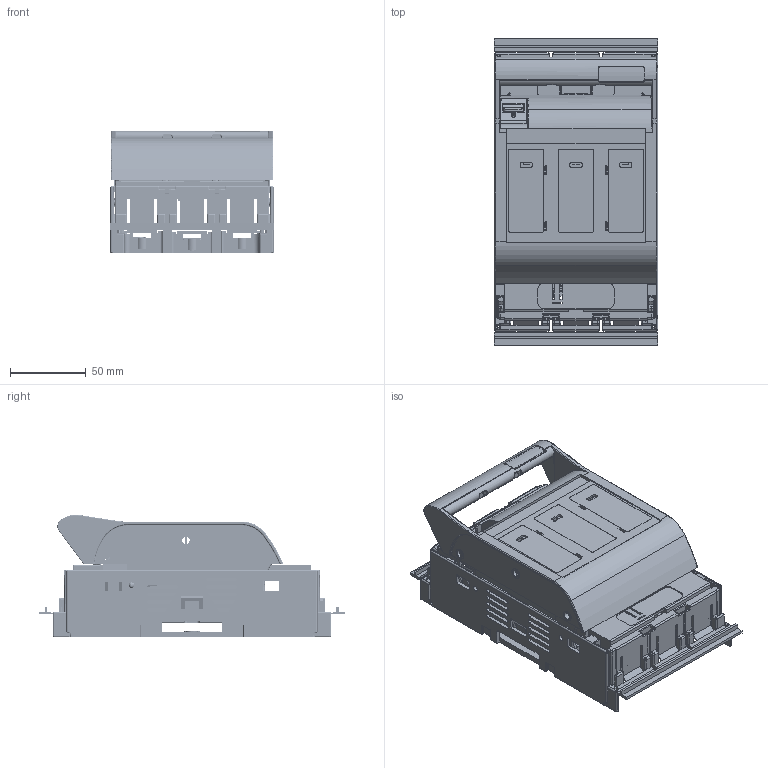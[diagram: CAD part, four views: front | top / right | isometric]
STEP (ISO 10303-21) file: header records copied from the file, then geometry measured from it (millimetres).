
FILE_DESCRIPTION (( 'STEP AP203' ), '1' );
FILE_NAME ('00ST9-3p.STEP', '2014-04-11T06:42:44', ( 'admin' ), ( '' ), 'SwSTEP 2.0', 'SolidWorks 2007', '' );
FILE_SCHEMA (( 'CONFIG_CONTROL_DESIGN' ));
Length unit declared in the file: millimetre
Products named in the file (1): 00ST9-3p
Bounding box: 108 x 202.4 x 81 mm (x, y, z)
Volume: 237879.3 mm3; surface area: 246719.3 mm2
Topology: 30 solids, 30 shells, 6246 faces, 16902 edges, 10409 vertices
Faces by surface type: plane 3067, cylinder 2159, bspline 827, cone 155, torus 38
Entity records: 229437 total; most frequent: CARTESIAN_POINT 82906, ORIENTED_EDGE 33320, DIRECTION 26596, EDGE_CURVE 16660, VECTOR 10916, LINE 10916, VERTEX_POINT 10409, AXIS2_PLACEMENT_3D 7840
